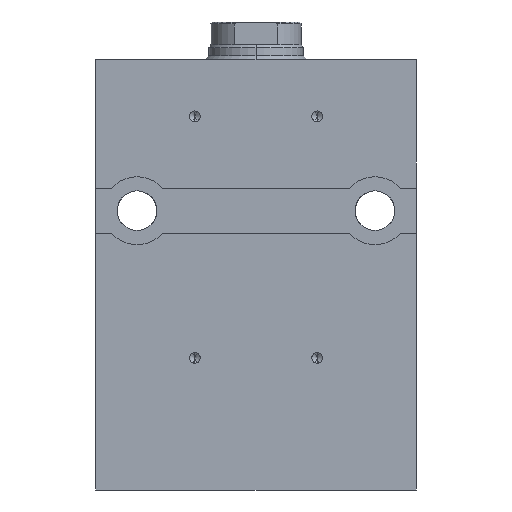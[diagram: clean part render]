
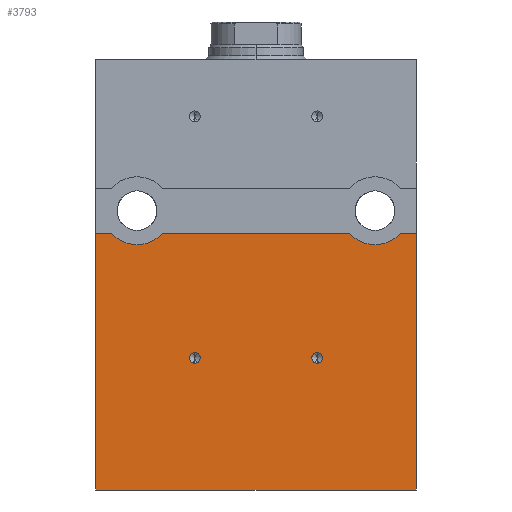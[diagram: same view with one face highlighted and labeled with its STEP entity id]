
A CAD part, left-side view. The second image highlights one B-rep face of the part: STEP entity #3793.
In plain terms, the highlighted planar face has unit normal (-1, 0, 0).
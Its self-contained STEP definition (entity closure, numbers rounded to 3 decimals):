
#60 = ORIENTED_EDGE ( 'NONE', *, *, #4701, .T. ) ;
#162 = ORIENTED_EDGE ( 'NONE', *, *, #6740, .F. ) ;
#285 = CARTESIAN_POINT ( 'NONE',  ( -31.5, -42.5, -56. ) ) ;
#406 = CARTESIAN_POINT ( 'NONE',  ( -31.5, 16.2, -87.575 ) ) ;
#422 = VERTEX_POINT ( 'NONE', #285 ) ;
#453 = PLANE ( 'NONE',  #2807 ) ;
#479 = CARTESIAN_POINT ( 'NONE',  ( -31.5, -16.2, -90.425 ) ) ;
#642 = AXIS2_PLACEMENT_3D ( 'NONE', #6158, #827, #687 ) ;
#687 = DIRECTION ( 'NONE',  ( 0., 0., 1. ) ) ;
#827 = DIRECTION ( 'NONE',  ( -1., 0., 0. ) ) ;
#915 = EDGE_CURVE ( 'NONE', #1017, #4896, #4845, .T. ) ;
#921 = AXIS2_PLACEMENT_3D ( 'NONE', #2117, #3195, #1063 ) ;
#1017 = VERTEX_POINT ( 'NONE', #1147 ) ;
#1050 = FACE_BOUND ( 'NONE', #2512, .T. ) ;
#1063 = DIRECTION ( 'NONE',  ( 0., 0., 1. ) ) ;
#1122 = VERTEX_POINT ( 'NONE', #2884 ) ;
#1134 = DIRECTION ( 'NONE',  ( -1., 0., 0. ) ) ;
#1147 = CARTESIAN_POINT ( 'NONE',  ( -31.5, -16.2, -87.575 ) ) ;
#1183 = DIRECTION ( 'NONE',  ( 0., 0., -1. ) ) ;
#1203 = LINE ( 'NONE', #5525, #3610 ) ;
#1256 = ORIENTED_EDGE ( 'NONE', *, *, #4457, .T. ) ;
#1596 = CIRCLE ( 'NONE', #2588, 9. ) ;
#1612 = AXIS2_PLACEMENT_3D ( 'NONE', #4467, #2333, #2272 ) ;
#1797 = CARTESIAN_POINT ( 'NONE',  ( -31.5, 38.208, -56. ) ) ;
#1878 = ORIENTED_EDGE ( 'NONE', *, *, #5305, .F. ) ;
#1924 = DIRECTION ( 'NONE',  ( 0., -1., 0. ) ) ;
#1945 = CARTESIAN_POINT ( 'NONE',  ( -31.5, 42.5, -124. ) ) ;
#2006 = EDGE_LOOP ( 'NONE', ( #2624, #162 ) ) ;
#2101 = EDGE_CURVE ( 'NONE', #4896, #1017, #2108, .T. ) ;
#2108 = CIRCLE ( 'NONE', #642, 1.425 ) ;
#2110 = EDGE_CURVE ( 'NONE', #5335, #1122, #2968, .T. ) ;
#2117 = CARTESIAN_POINT ( 'NONE',  ( -31.5, 16.2, -89. ) ) ;
#2178 = DIRECTION ( 'NONE',  ( 0., 0., 1. ) ) ;
#2186 = CARTESIAN_POINT ( 'NONE',  ( -31.5, -38.208, -56. ) ) ;
#2201 = DIRECTION ( 'NONE',  ( 1., 0., 0. ) ) ;
#2234 = ORIENTED_EDGE ( 'NONE', *, *, #2110, .F. ) ;
#2272 = DIRECTION ( 'NONE',  ( 0., 0., 1. ) ) ;
#2333 = DIRECTION ( 'NONE',  ( -1., 0., 0. ) ) ;
#2343 = CIRCLE ( 'NONE', #6662, 1.425 ) ;
#2512 = EDGE_LOOP ( 'NONE', ( #3084, #5890 ) ) ;
#2588 = AXIS2_PLACEMENT_3D ( 'NONE', #6502, #2201, #1183 ) ;
#2606 = CARTESIAN_POINT ( 'NONE',  ( -31.5, 31.5, -50. ) ) ;
#2624 = ORIENTED_EDGE ( 'NONE', *, *, #5445, .F. ) ;
#2631 = CIRCLE ( 'NONE', #5082, 9. ) ;
#2690 = CARTESIAN_POINT ( 'NONE',  ( -31.5, -42.5, -124. ) ) ;
#2743 = EDGE_CURVE ( 'NONE', #5335, #3188, #2631, .T. ) ;
#2751 = CARTESIAN_POINT ( 'NONE',  ( -31.5, 42.5, -124. ) ) ;
#2807 = AXIS2_PLACEMENT_3D ( 'NONE', #3701, #6866, #6270 ) ;
#2876 = DIRECTION ( 'NONE',  ( 0., -1., 0. ) ) ;
#2884 = CARTESIAN_POINT ( 'NONE',  ( -31.5, -24.792, -56. ) ) ;
#2968 = LINE ( 'NONE', #3939, #2999 ) ;
#2999 = VECTOR ( 'NONE', #6648, 1000. ) ;
#3084 = ORIENTED_EDGE ( 'NONE', *, *, #915, .F. ) ;
#3139 = EDGE_CURVE ( 'NONE', #6736, #422, #1203, .T. ) ;
#3180 = FACE_OUTER_BOUND ( 'NONE', #5168, .T. ) ;
#3188 = VERTEX_POINT ( 'NONE', #1797 ) ;
#3195 = DIRECTION ( 'NONE',  ( -1., 0., 0. ) ) ;
#3258 = VECTOR ( 'NONE', #6071, 1000. ) ;
#3262 = DIRECTION ( 'NONE',  ( 0., 0., 1. ) ) ;
#3547 = DIRECTION ( 'NONE',  ( 0., 0., 1. ) ) ;
#3610 = VECTOR ( 'NONE', #2876, 1000. ) ;
#3686 = VECTOR ( 'NONE', #1924, 1000. ) ;
#3691 = DIRECTION ( 'NONE',  ( 1., 0., 0. ) ) ;
#3701 = CARTESIAN_POINT ( 'NONE',  ( -31.5, 42.5, -124. ) ) ;
#3793 = ADVANCED_FACE ( 'NONE', ( #1050, #4723, #3180 ), #453, .T. ) ;
#3930 = CIRCLE ( 'NONE', #921, 1.425 ) ;
#3939 = CARTESIAN_POINT ( 'NONE',  ( -31.5, 42.5, -56. ) ) ;
#4081 = VERTEX_POINT ( 'NONE', #6023 ) ;
#4172 = CARTESIAN_POINT ( 'NONE',  ( -31.5, -42.5, -124. ) ) ;
#4205 = VERTEX_POINT ( 'NONE', #406 ) ;
#4457 = EDGE_CURVE ( 'NONE', #6384, #4728, #5631, .T. ) ;
#4467 = CARTESIAN_POINT ( 'NONE',  ( -31.5, -16.2, -89. ) ) ;
#4615 = VECTOR ( 'NONE', #3547, 1000. ) ;
#4621 = VERTEX_POINT ( 'NONE', #4918 ) ;
#4665 = CARTESIAN_POINT ( 'NONE',  ( -31.5, 24.792, -56. ) ) ;
#4701 = EDGE_CURVE ( 'NONE', #6736, #1122, #1596, .T. ) ;
#4723 = FACE_BOUND ( 'NONE', #2006, .T. ) ;
#4728 = VERTEX_POINT ( 'NONE', #2690 ) ;
#4747 = DIRECTION ( 'NONE',  ( 0., 0., -1. ) ) ;
#4832 = LINE ( 'NONE', #4172, #5347 ) ;
#4845 = CIRCLE ( 'NONE', #1612, 1.425 ) ;
#4896 = VERTEX_POINT ( 'NONE', #479 ) ;
#4918 = CARTESIAN_POINT ( 'NONE',  ( -31.5, 42.5, -56. ) ) ;
#5069 = ORIENTED_EDGE ( 'NONE', *, *, #5929, .T. ) ;
#5082 = AXIS2_PLACEMENT_3D ( 'NONE', #2606, #3691, #4747 ) ;
#5144 = LINE ( 'NONE', #1945, #4615 ) ;
#5168 = EDGE_LOOP ( 'NONE', ( #5861, #60, #2234, #5279, #6090, #1878, #1256, #5069 ) ) ;
#5279 = ORIENTED_EDGE ( 'NONE', *, *, #2743, .T. ) ;
#5305 = EDGE_CURVE ( 'NONE', #6384, #4621, #5144, .T. ) ;
#5335 = VERTEX_POINT ( 'NONE', #4665 ) ;
#5347 = VECTOR ( 'NONE', #2178, 1000. ) ;
#5391 = CARTESIAN_POINT ( 'NONE',  ( -31.5, 16.2, -89. ) ) ;
#5445 = EDGE_CURVE ( 'NONE', #4205, #4081, #3930, .T. ) ;
#5525 = CARTESIAN_POINT ( 'NONE',  ( -31.5, 42.5, -56. ) ) ;
#5631 = LINE ( 'NONE', #6632, #3258 ) ;
#5861 = ORIENTED_EDGE ( 'NONE', *, *, #3139, .F. ) ;
#5890 = ORIENTED_EDGE ( 'NONE', *, *, #2101, .F. ) ;
#5929 = EDGE_CURVE ( 'NONE', #4728, #422, #4832, .T. ) ;
#6023 = CARTESIAN_POINT ( 'NONE',  ( -31.5, 16.2, -90.425 ) ) ;
#6071 = DIRECTION ( 'NONE',  ( 0., -1., 0. ) ) ;
#6088 = LINE ( 'NONE', #6691, #3686 ) ;
#6090 = ORIENTED_EDGE ( 'NONE', *, *, #6130, .F. ) ;
#6130 = EDGE_CURVE ( 'NONE', #4621, #3188, #6088, .T. ) ;
#6158 = CARTESIAN_POINT ( 'NONE',  ( -31.5, -16.2, -89. ) ) ;
#6270 = DIRECTION ( 'NONE',  ( 0., 0., 1. ) ) ;
#6384 = VERTEX_POINT ( 'NONE', #2751 ) ;
#6502 = CARTESIAN_POINT ( 'NONE',  ( -31.5, -31.5, -50. ) ) ;
#6632 = CARTESIAN_POINT ( 'NONE',  ( -31.5, 42.5, -124. ) ) ;
#6648 = DIRECTION ( 'NONE',  ( 0., -1., 0. ) ) ;
#6662 = AXIS2_PLACEMENT_3D ( 'NONE', #5391, #1134, #3262 ) ;
#6691 = CARTESIAN_POINT ( 'NONE',  ( -31.5, 42.5, -56. ) ) ;
#6736 = VERTEX_POINT ( 'NONE', #2186 ) ;
#6740 = EDGE_CURVE ( 'NONE', #4081, #4205, #2343, .T. ) ;
#6866 = DIRECTION ( 'NONE',  ( -1., 0., 0. ) ) ;
